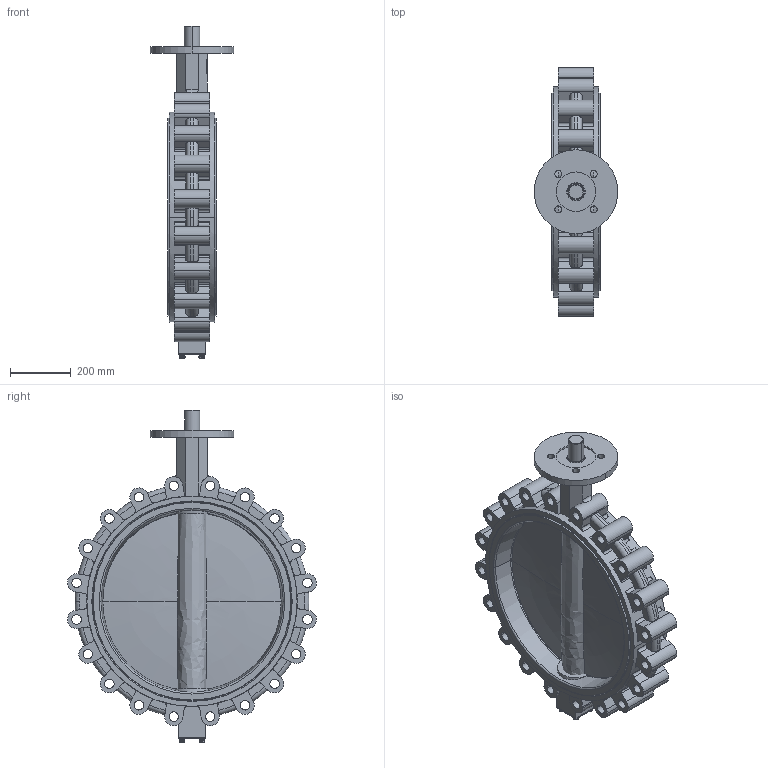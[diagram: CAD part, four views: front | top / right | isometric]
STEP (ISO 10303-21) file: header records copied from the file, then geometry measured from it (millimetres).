
FILE_DESCRIPTION(('Open CASCADE Model'),'2;1');
FILE_NAME('Open CASCADE Shape Model','2022-03-10T15:37:08',('Author'),( 'Open CASCADE'),'Open CASCADE STEP processor 7.3','Open CASCADE 7.3' ,'Unknown');
FILE_SCHEMA(('AUTOMOTIVE_DESIGN { 1 0 10303 214 1 1 1 1 }'));
Length unit declared in the file: millimetre
Products named in the file (19): Open CASCADE STEP translator 7.3 1; Open CASCADE STEP translator 7.3 1.1; Open CASCADE STEP translator 7.3 1.2; Open CASCADE STEP translator 7.3 1.3; Open CASCADE STEP translator 7.3 1.4; Open CASCADE STEP translator 7.3 1.5; Open CASCADE STEP translator 7.3 1.6; Open CASCADE STEP translator 7.3 1.7; Open CASCADE STEP translator 7.3 1.8; Open CASCADE STEP translator 7.3 1.9; Open CASCADE STEP translator 7.3 1.10; Open CASCADE STEP translator 7.3 1.11; Open CASCADE STEP translator 7.3 1.12; Open CASCADE STEP translator 7.3 1.13; Open CASCADE STEP translator 7.3 1.14; Open CASCADE STEP translator 7.3 1.15; Open CASCADE STEP translator 7.3 1.16; Open CASCADE STEP translator 7.3 1.17; Open CASCADE STEP translator 7.3 1.18
Assembly tree (18 placements, depth 2):
  Open CASCADE STEP translator 7.3 1
    Open CASCADE STEP translator 7.3 1.1
    Open CASCADE STEP translator 7.3 1.2
    Open CASCADE STEP translator 7.3 1.3
    Open CASCADE STEP translator 7.3 1.4
    Open CASCADE STEP translator 7.3 1.5
    Open CASCADE STEP translator 7.3 1.6
    Open CASCADE STEP translator 7.3 1.7
    Open CASCADE STEP translator 7.3 1.8
    Open CASCADE STEP translator 7.3 1.9
    Open CASCADE STEP translator 7.3 1.10
    Open CASCADE STEP translator 7.3 1.11
    Open CASCADE STEP translator 7.3 1.12
    Open CASCADE STEP translator 7.3 1.13
    Open CASCADE STEP translator 7.3 1.14
    Open CASCADE STEP translator 7.3 1.15
    Open CASCADE STEP translator 7.3 1.16
    Open CASCADE STEP translator 7.3 1.17
    Open CASCADE STEP translator 7.3 1.18
Bounding box: 276 x 820.52 x 1093.85 mm (x, y, z)
Volume: 34959597.4 mm3; surface area: 3163722.9 mm2
Topology: 18 solids, 18 shells, 728 faces, 1916 edges, 1241 vertices
Faces by surface type: cylinder 322, plane 247, cone 80, torus 69, revolution 8, bspline 2
Entity records: 66994 total; most frequent: CARTESIAN_POINT 29054, DIRECTION 7140, ORIENTED_EDGE 3812, PCURVE 3812, DEFINITIONAL_REPRESENTATION 3812, LINE 3397, VECTOR 3397, EDGE_CURVE 1906
